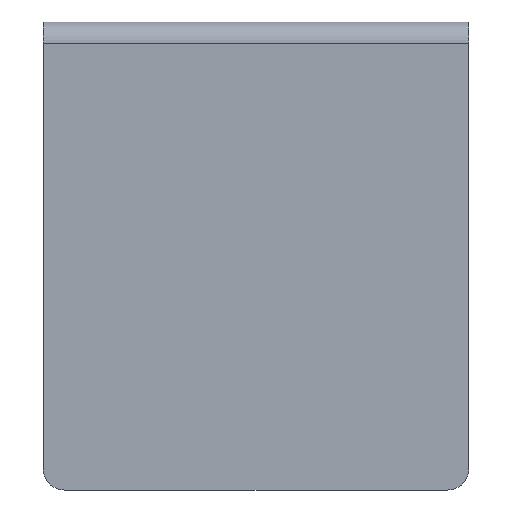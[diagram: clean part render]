
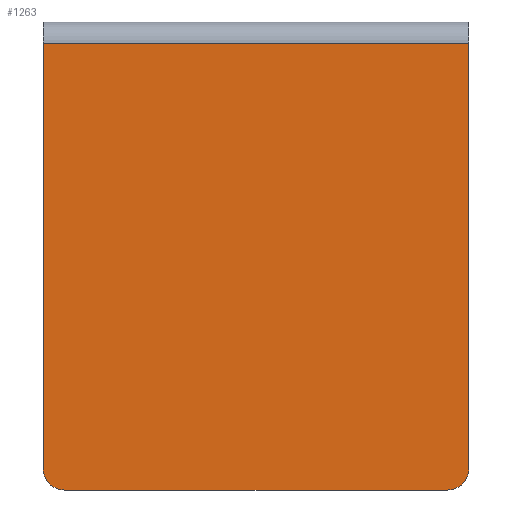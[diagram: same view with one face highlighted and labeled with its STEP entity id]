
A CAD part, front view. The second image highlights one B-rep face of the part: STEP entity #1263.
In plain terms, the highlighted planar face has unit normal (0, -1, 0).
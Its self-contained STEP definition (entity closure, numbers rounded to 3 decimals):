
#115=PLANE('',#1357);
#154=FACE_OUTER_BOUND('',#220,.T.);
#220=EDGE_LOOP('',(#894,#895,#896,#897,#898,#899));
#289=LINE('',#1896,#408);
#294=LINE('',#1911,#413);
#295=LINE('',#1913,#414);
#296=LINE('',#1914,#415);
#408=VECTOR('',#1500,10.);
#413=VECTOR('',#1515,10.);
#414=VECTOR('',#1516,10.);
#415=VECTOR('',#1517,10.);
#524=CIRCLE('',#1351,1.);
#526=CIRCLE('',#1356,1.);
#583=VERTEX_POINT('',#1886);
#584=VERTEX_POINT('',#1888);
#586=VERTEX_POINT('',#1894);
#590=VERTEX_POINT('',#1906);
#591=VERTEX_POINT('',#1910);
#592=VERTEX_POINT('',#1912);
#701=EDGE_CURVE('',#583,#584,#524,.T.);
#705=EDGE_CURVE('',#586,#583,#289,.T.);
#710=EDGE_CURVE('',#590,#586,#526,.T.);
#712=EDGE_CURVE('',#591,#590,#294,.T.);
#713=EDGE_CURVE('',#592,#591,#295,.T.);
#714=EDGE_CURVE('',#592,#584,#296,.T.);
#894=ORIENTED_EDGE('',*,*,#701,.F.);
#895=ORIENTED_EDGE('',*,*,#705,.F.);
#896=ORIENTED_EDGE('',*,*,#710,.F.);
#897=ORIENTED_EDGE('',*,*,#712,.F.);
#898=ORIENTED_EDGE('',*,*,#713,.F.);
#899=ORIENTED_EDGE('',*,*,#714,.T.);
#1263=ADVANCED_FACE('',(#154),#115,.T.);
#1351=AXIS2_PLACEMENT_3D('',#1889,#1493,#1494);
#1356=AXIS2_PLACEMENT_3D('',#1907,#1510,#1511);
#1357=AXIS2_PLACEMENT_3D('',#1909,#1513,#1514);
#1493=DIRECTION('center_axis',(0.,1.,0.));
#1494=DIRECTION('ref_axis',(-0.707,0.,-0.707));
#1500=DIRECTION('',(-1.,0.,0.));
#1510=DIRECTION('center_axis',(0.,1.,0.));
#1511=DIRECTION('ref_axis',(0.707,0.,-0.707));
#1513=DIRECTION('center_axis',(0.,-1.,0.));
#1514=DIRECTION('ref_axis',(0.,0.,-1.));
#1515=DIRECTION('',(0.,0.,-1.));
#1516=DIRECTION('',(1.,0.,0.));
#1517=DIRECTION('',(0.,0.,-1.));
#1886=CARTESIAN_POINT('',(-9.,-13.,-20.));
#1888=CARTESIAN_POINT('',(-10.,-13.,-19.));
#1889=CARTESIAN_POINT('Origin',(-9.,-13.,-19.));
#1894=CARTESIAN_POINT('',(9.,-13.,-20.));
#1896=CARTESIAN_POINT('',(10.,-13.,-20.));
#1906=CARTESIAN_POINT('',(10.,-13.,-19.));
#1907=CARTESIAN_POINT('Origin',(9.,-13.,-19.));
#1909=CARTESIAN_POINT('Origin',(0.,-13.,1.));
#1910=CARTESIAN_POINT('',(10.,-13.,1.));
#1911=CARTESIAN_POINT('',(10.,-13.,0.));
#1912=CARTESIAN_POINT('',(-10.,-13.,1.));
#1913=CARTESIAN_POINT('',(0.,-13.,1.));
#1914=CARTESIAN_POINT('',(-10.,-13.,2.));
